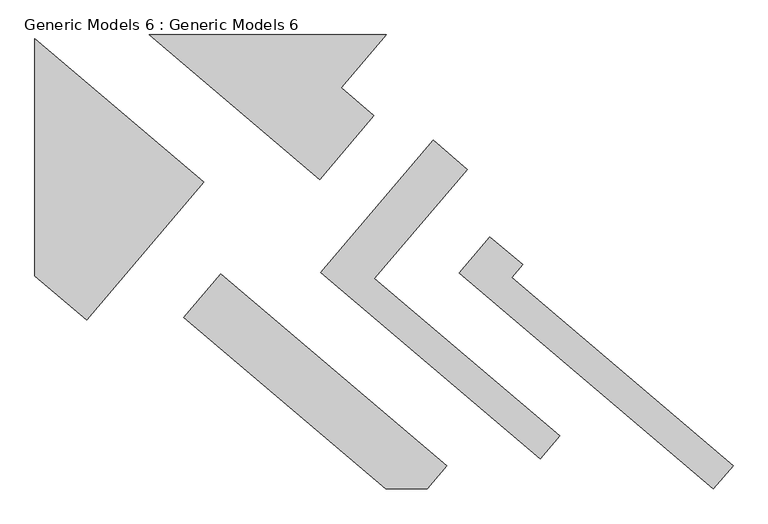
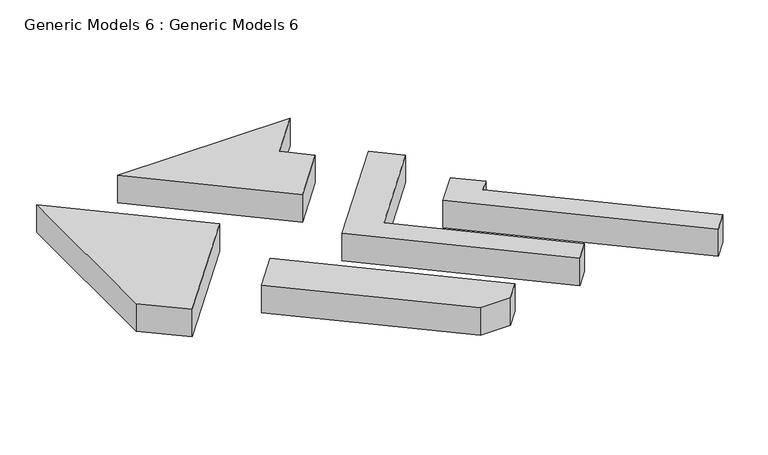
"""IFC4 building model written with IfcOpenShell, lengths in millimetres: proxy geometry, Generic Models 6 : Generic Models 6."""

from ifc_helpers import new_model, si_unit, origin, origin_with_axes, place, context, project, spatial, polyline, outline, extrude, source, transform, mapped, element, save


def generic_models_6_generic_models_6_53ba3bc5(model_context):
    return source(origin(), model_context, "Body", "SweptSolid", [
        extrude(outline(polyline([(834096.3112235, 59275.0524905), (837161.8403155, 62877.2427863), (840470.3241957, 60146.2761245), (839331.8327083, 58805.8324902), (861512.5530729, 39966.8744959), (859550.0449147, 37656.1955768), (834096.3112235, 59275.0524905)])), origin_with_axes(), (0.0, 0.0, 1.0), 4000.0),
        extrude(outline(polyline([(842196.2063642, 40644.7700019), (820215.2196789, 59314.0863284), (831470.9340113, 72566.4037966), (834892.7697499, 69659.8251768), (825599.2404587, 58718.7400375), (844158.7145223, 42955.4489211), (842196.2063642, 40644.7700019)])), origin_with_axes(), (0.0, 0.0, 1.0), 4000.0),
        extrude(outline(polyline([(832839.1022941, 39928.8959241), (830896.4406796, 37641.584546), (826725.2822763, 37641.584546), (806503.1798754, 54820.0866951), (810192.560742, 59163.4941699), (832839.1022941, 39928.8959241)])), origin_with_axes(), (0.0, 0.0, 1.0), 4000.0),
        extrude(outline(polyline([(808523.1655074, 68384.7918072), (796794.2144703, 54575.619296), (791604.7892295, 58983.3014856), (791604.7892295, 82754.2340432), (808523.1655074, 68384.7918072)])), origin_with_axes(), (0.0, 0.0, 1.0), 4000.0),
        extrude(outline(polyline([(820107.3660754, 68635.3547131), (803033.0745317, 83137.2219152), (826777.3865729, 83137.2219152), (822264.557697, 77823.8815818), (825545.0619837, 75037.6202954), (820107.3660754, 68635.3547131)])), origin_with_axes(), (0.0, 0.0, 1.0), 4000.0),
    ])


if __name__ == "__main__":
    model = new_model("IFC4")
    model_context = context("Model", 3, world=origin())
    ifc_project = project(units=[si_unit("LENGTHUNIT", "METRE", prefix="MILLI")], contexts=[model_context])
    site = spatial("IfcSite", under=ifc_project)
    building = spatial("IfcBuilding", under=site)
    placement = place(None, origin())
    generic_models_6_generic_models_6_shape = generic_models_6_generic_models_6_53ba3bc5(model_context)
    element("IfcBuildingElementProxy", 1, Name="Generic Models 6 : Generic Models 6", ObjectType="Generic Models 6 : Generic Models 6", at=placement, inside=building, context=model_context, shape_type="MappedRepresentation", body=[
        mapped(generic_models_6_generic_models_6_shape, transform((0.0, 0.0, 0.0), x_axis=(1.0, 0.0, 0.0), y_axis=(0.0, 1.0, 0.0), z_axis=(0.0, 0.0, 1.0))),
    ])
    save(model, "model.ifc")
